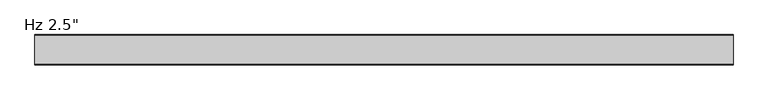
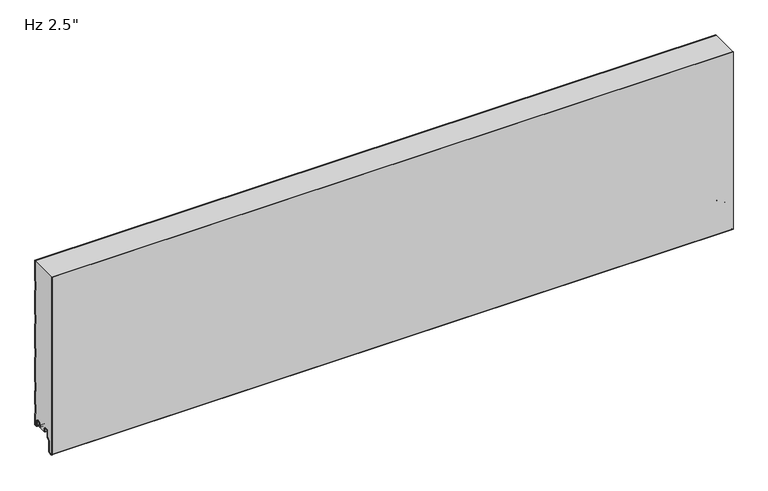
"""IFC4 building model written with IfcOpenShell, lengths in millimetres: plate geometry."""

from ifc_helpers import new_model, si_unit, point, frame, frame_2d, origin, place, context, project, spatial, polyline, circle_curve, trimmed, segment, composite_curve, outline, extrude, source, transform, mapped, element, save
from ifc_brep_helpers import plane_surface, cylinder_surface, revolved_surface, advanced_brep


def plate_5c45e8e0(model_context):
    return source(origin(), model_context, "Body", "SolidModel", [
        extrude(outline(composite_curve([segment(trimmed(circle_curve(frame_2d((-59.9297607, -32.4521176)), 3.5702393), [point((-59.6184903, -36.008762))], [point((-63.5, -32.4521154))], False, "CARTESIAN"), True, "CONTINUOUS"), segment(polyline([(-63.5, -32.4521154), (-63.4997439, 368.0), (-62.4993606, 368.0), (-62.4993606, -32.509446)]), True, "CONTINUOUS"), segment(trimmed(circle_curve(frame_2d((-59.9297607, -32.4521176)), 2.5702393), [point((-62.4993606, -32.509446))], [point((-59.7056751, -35.0125699))], True, "CARTESIAN"), True, "CONTINUOUS"), segment(polyline([(-59.7056751, -35.0125699), (-54.7238542, -34.5765709)]), True, "CONTINUOUS"), segment(trimmed(circle_curve(frame_2d((-55.2052448, -31.9198392)), 2.6999926), [point((-54.7238542, -34.5765709))], [point((-52.5052522, -31.9198392))], True, "CARTESIAN"), True, "CONTINUOUS"), segment(polyline([(-52.5052522, -31.9198392), (-52.5052522, -9.8247096), (-47.0031811, -4.3226385)]), True, "CONTINUOUS"), segment(trimmed(circle_curve(frame_2d((-48.2052588, -3.1205608)), 1.6999946), [point((-47.0031811, -4.3226385))], [point((-46.5052642, -3.1205608))], True, "CARTESIAN"), True, "CONTINUOUS"), segment(polyline([(-46.5052642, -3.1205608), (-46.5052642, 8.6903283)]), True, "CONTINUOUS"), segment(trimmed(circle_curve(frame_2d((-43.1552689, 8.6903283)), 3.3499953), [point((-46.5052642, 8.6903283))], [point((-43.1552689, 12.0403236))], False, "CARTESIAN"), True, "CONTINUOUS"), segment(polyline([(-43.1552689, 12.0403236), (-38.7552777, 12.0403236)]), True, "CONTINUOUS"), segment(trimmed(circle_curve(frame_2d((-38.7552777, 8.6903283)), 3.3499953), [point((-38.7552777, 12.0403236))], [point((-35.4052824, 8.6903283))], False, "CARTESIAN"), True, "CONTINUOUS"), segment(polyline([(-35.4052824, 8.6903283), (-35.4052824, 5.9912173), (-34.0068035, 5.9912173), (-34.0068035, 2.2328239)]), True, "CONTINUOUS"), segment(trimmed(circle_curve(frame_2d((-35.2068002, 2.2313092)), 1.1999976), [point((-34.0068035, 2.2328239))], [point((-35.1762782, 1.0316999))], False, "CARTESIAN"), True, "CONTINUOUS"), segment(trimmed(circle_curve(frame_2d((-35.2068002, 2.2313092)), 1.1999976), [point((-35.1762782, 1.0316999))], [point((-36.4052824, 2.1710221))], False, "CARTESIAN"), True, "CONTINUOUS"), segment(polyline([(-36.4052824, 2.1710221), (-36.4052824, 8.6903283)]), True, "CONTINUOUS"), segment(trimmed(circle_curve(frame_2d((-38.7552777, 8.6903283)), 2.3499953), [point((-36.4052824, 8.6903283))], [point((-38.7552777, 11.0403236))], True, "CARTESIAN"), True, "CONTINUOUS"), segment(polyline([(-38.7552777, 11.0403236), (-43.1552689, 11.0403236)]), True, "CONTINUOUS"), segment(trimmed(circle_curve(frame_2d((-43.1552689, 8.6903283)), 2.3499953), [point((-43.1552689, 11.0403236))], [point((-45.5052642, 8.6903283))], True, "CARTESIAN"), True, "CONTINUOUS"), segment(polyline([(-45.5052642, 8.6903283), (-45.5052642, -3.1205608)]), True, "CONTINUOUS"), segment(trimmed(circle_curve(frame_2d((-48.2052588, -3.1205608)), 2.6999946), [point((-45.5052642, -3.1205608))], [point((-46.2960743, -5.0297453))], False, "CARTESIAN"), True, "CONTINUOUS"), segment(polyline([(-46.2960743, -5.0297453), (-51.1244918, -9.8581627)]), True, "CONTINUOUS"), segment(trimmed(circle_curve(frame_2d((-50.2052548, -10.7773997)), 1.2999974), [point((-51.1244918, -9.8581627))], [point((-51.5052522, -10.7773997))], True, "CARTESIAN"), True, "CONTINUOUS"), segment(polyline([(-51.5052522, -10.7773997), (-51.5052522, -31.9198392)]), True, "CONTINUOUS"), segment(trimmed(circle_curve(frame_2d((-55.2052448, -31.9198392)), 3.6999926), [point((-51.5052522, -31.9198392))], [point((-54.5944437, -35.5690675))], False, "CARTESIAN"), True, "CONTINUOUS"), segment(polyline([(-54.5944437, -35.5690675), (-59.6184903, -36.008762)]), True, "CONTINUOUS")], self_intersect=False)), frame((-730.0, 0.0, 0.0), z_axis=(1.0, 0.0, 0.0), x_axis=(0.0, 1.0, 0.0)), (0.0, 0.0, 1.0), 1460.0),
        advanced_brep(
        [(-730.0, -17.0015159, 2.0313088), (-730.0, -18.0015191, 1.0313115), (-730.0, -19.0015105, 2.0313088), (-730.0, -19.0015105, 6.0315124), (-730.0, -18.0015159, 6.0315124), (-730.0, -18.0015159, 8.7237222), (-730.0, -14.7015202, 12.0237179), (-730.0, -10.301529, 12.0237179), (-730.0, -7.0015335, 8.7237224), (-730.0, -7.0015335, -1.6962565), (-730.0, -5.2315393, -3.4662507), (-730.0, -0.9999916, -3.4662507), (-730.0, -0.9999916, 21.034026), (-730.0, -2.2002307, 22.4196686), (-730.0, -2.2002307, 41.7948349), (-730.0, -1.0, 43.1804678), (-730.0, -1.0, 71.8338832), (-730.0, -2.2002307, 73.2195162), (-730.0, -2.2002307, 92.5946825), (-730.0, -1.0, 93.9803154), (-730.0, -1.0, 148.0337308), (-730.0, -2.2002307, 149.4193638), (-730.0, -2.2002307, 168.7945301), (-730.0, -1.0, 170.180163), (-730.0, -1.0, 224.2335784), (-730.0, -2.2002307, 225.6192114), (-730.0, -2.2002307, 244.9943777), (-730.0, -1.0, 246.3800106), (-730.0, -1.0, 300.433426), (-730.0, -2.2002307, 301.819059), (-730.0, -2.2002307, 321.1942253), (-730.0, -1.0, 322.5798582), (-730.0, -1.0, 368.0), (-730.0, 0.0, 368.0), (-730.0, 0.0, 322.7290094), (-730.0, -0.3417885, 321.8123925), (-730.0, -1.2002307, 320.8213449), (-730.0, -1.2002307, 302.1919394), (-730.0, -0.3417885, 301.2008918), (-730.0, 0.0, 300.2842749), (-730.0, 0.0, 246.5291618), (-730.0, -0.3417885, 245.6125449), (-730.0, -1.2002307, 244.6214973), (-730.0, -1.2002307, 225.9920918), (-730.0, -0.3417885, 225.0010442), (-730.0, 0.0, 224.0844273), (-730.0, 0.0, 170.3293142), (-730.0, -0.3417885, 169.4126973), (-730.0, -1.2002307, 168.4216497), (-730.0, -1.2002307, 149.7922442), (-730.0, -0.3417885, 148.8011966), (-730.0, 0.0, 147.8845797), (-730.0, 0.0, 94.1294666), (-730.0, -0.3417885, 93.2128497), (-730.0, -1.2002307, 92.2218021), (-730.0, -1.2002307, 73.5923966), (-730.0, -0.3417885, 72.601349), (-730.0, 0.0, 71.6847321), (-730.0, 0.0, 43.329619), (-730.0, -0.3417885, 42.4130021), (-730.0, -1.2002307, 41.4219545), (-730.0, -1.2002307, 22.792549), (-730.0, -0.3417885, 21.8015014), (-730.0, 0.0, 20.8847931), (-730.0, 8.4e-06, -3.0662545), (-730.0, -1.3999878, -4.4662507), (-730.0, -5.2315393, -4.4662507), (-730.0, -8.0015335, -1.6962565), (-730.0, -8.0015335, 8.7237224), (-730.0, -10.301529, 11.0237179), (-730.0, -14.7015202, 11.0237179), (-730.0, -17.0015159, 8.7237222), (730.0, -17.0015159, 2.0313088), (730.0, -17.0015159, 8.7237222), (730.0, -14.7015202, 11.0237179), (730.0, -10.301529, 11.0237179), (730.0, -8.0015335, 8.7237224), (730.0, -8.0015335, -1.6962565), (730.0, -5.2315393, -4.4662507), (730.0, -1.3999878, -4.4662507), (730.0, 8.4e-06, -3.0662545), (730.0, 8.4e-06, 20.8848845), (730.0, -0.3417885, 21.8015014), (730.0, -1.2002307, 22.792549), (730.0, -1.2002307, 41.4219545), (730.0, -0.3417885, 42.4130021), (730.0, 0.0, 43.329619), (730.0, 0.0, 71.6847321), (730.0, -0.3417885, 72.601349), (730.0, -1.2002307, 73.5923966), (730.0, -1.2002307, 92.2218021), (730.0, -0.3417885, 93.2128497), (730.0, 0.0, 94.1294666), (730.0, 0.0, 147.8845797), (730.0, -0.3417885, 148.8011966), (730.0, -1.2002307, 149.7922442), (730.0, -1.2002307, 168.4216497), (730.0, -0.3417885, 169.4126973), (730.0, 0.0, 170.3293142), (730.0, 0.0, 224.0844273), (730.0, -0.3417885, 225.0010442), (730.0, -1.2002307, 225.9920918), (730.0, -1.2002307, 244.6214973), (730.0, -0.3417885, 245.6125449), (730.0, 0.0, 246.5291618), (730.0, 0.0, 300.2842749), (730.0, -0.3417885, 301.2008918), (730.0, -1.2002307, 302.1919394), (730.0, -1.2002307, 320.8213449), (730.0, -0.3417885, 321.8123925), (730.0, 0.0, 322.7290094), (730.0, 0.0, 368.0), (730.0, -1.0, 368.0), (730.0, -1.0, 322.5798582), (730.0, -2.2002307, 321.1942253), (730.0, -2.2002307, 301.819059), (730.0, -1.0, 300.433426), (730.0, -1.0, 246.3800106), (730.0, -2.2002307, 244.9943777), (730.0, -2.2002307, 225.6192114), (730.0, -1.0, 224.2335784), (730.0, -1.0, 170.180163), (730.0, -2.2002307, 168.7945301), (730.0, -2.2002307, 149.4193638), (730.0, -1.0, 148.0337308), (730.0, -1.0, 93.9803154), (730.0, -2.2002307, 92.5946825), (730.0, -2.2002307, 73.2195162), (730.0, -1.0, 71.8338832), (730.0, -1.0, 43.1804678), (730.0, -2.2002307, 41.7948349), (730.0, -2.2002307, 22.4196686), (730.0, -0.9999916, 21.034026), (730.0, -0.9999916, -3.4662507), (730.0, -5.2315393, -3.4662507), (730.0, -7.0015335, -1.6962565), (730.0, -7.0015335, 8.7237224), (730.0, -10.301529, 12.0237179), (730.0, -14.7015202, 12.0237179), (730.0, -18.0015159, 8.7237222), (730.0, -18.0015159, 6.0315124), (730.0, -19.0015105, 6.0315124), (730.0, -19.0015105, 2.0313088), (730.0, -18.0015192, 1.0313116)],
        [
            (0, 1, circle_curve(frame((-730.0, -18.0015132, 2.0313088), z_axis=(-1.0, 0.0, 0.0), x_axis=(0.0, 0.0, 1.0)), 0.9999973)),
            (1, 2, circle_curve(frame((-730.0, -18.0015133, 2.0313088), z_axis=(-1.0, 0.0, 0.0), x_axis=(0.0, 0.0, 1.0)), 0.9999972)),
            (2, 3),
            (3, 4),
            (4, 5),
            (5, 6, circle_curve(frame((-730.0, -14.7015202, 8.7237222), z_axis=(-1.0, 0.0, 0.0), x_axis=(0.0, 0.0, 1.0)), 3.2999957)),
            (6, 7),
            (7, 8, circle_curve(frame((-730.0, -10.301529, 8.7237224), z_axis=(-1.0, 0.0, 0.0), x_axis=(0.0, 0.0, 1.0)), 3.2999955)),
            (8, 9),
            (9, 10, circle_curve(frame((-730.0, -5.2315393, -1.6962565), z_axis=(1.0, 0.0, 0.0), x_axis=(0.0, 0.0, 1.0)), 1.7699942)),
            (10, 11),
            (11, 12),
            (12, 13),
            (13, 14),
            (14, 15),
            (15, 16),
            (16, 17),
            (17, 18),
            (18, 19),
            (19, 20),
            (20, 21),
            (21, 22),
            (22, 23),
            (23, 24),
            (24, 25),
            (25, 26),
            (26, 27),
            (27, 28),
            (28, 29),
            (29, 30),
            (30, 31),
            (31, 32),
            (32, 33),
            (33, 34),
            (34, 35, circle_curve(frame((-730.0, -1.3999972, 322.7290094), z_axis=(-1.0, 0.0, 0.0), x_axis=(0.0, 0.0, 1.0)), 1.3999972)),
            (35, 36),
            (36, 37),
            (37, 38),
            (38, 39, circle_curve(frame((-730.0, -1.3999972, 300.2842749), z_axis=(-1.0, 0.0, 0.0), x_axis=(0.0, 0.0, 1.0)), 1.3999972)),
            (39, 40),
            (40, 41, circle_curve(frame((-730.0, -1.3999972, 246.5291618), z_axis=(-1.0, 0.0, 0.0), x_axis=(0.0, 0.0, 1.0)), 1.3999972)),
            (41, 42),
            (42, 43),
            (43, 44),
            (44, 45, circle_curve(frame((-730.0, -1.3999972, 224.0844273), z_axis=(-1.0, 0.0, 0.0), x_axis=(0.0, 0.0, 1.0)), 1.3999972)),
            (45, 46),
            (46, 47, circle_curve(frame((-730.0, -1.3999972, 170.3293142), z_axis=(-1.0, 0.0, 0.0), x_axis=(0.0, 0.0, 1.0)), 1.3999972)),
            (47, 48),
            (48, 49),
            (49, 50),
            (50, 51, circle_curve(frame((-730.0, -1.3999972, 147.8845797), z_axis=(-1.0, 0.0, 0.0), x_axis=(0.0, 0.0, 1.0)), 1.3999972)),
            (51, 52),
            (52, 53, circle_curve(frame((-730.0, -1.3999972, 94.1294666), z_axis=(-1.0, 0.0, 0.0), x_axis=(0.0, 0.0, 1.0)), 1.3999972)),
            (53, 54),
            (54, 55),
            (55, 56),
            (56, 57, circle_curve(frame((-730.0, -1.3999972, 71.6847321), z_axis=(-1.0, 0.0, 0.0), x_axis=(0.0, 0.0, 1.0)), 1.3999972)),
            (57, 58),
            (58, 59, circle_curve(frame((-730.0, -1.3999972, 43.329619), z_axis=(-1.0, 0.0, 0.0), x_axis=(0.0, 0.0, 1.0)), 1.3999972)),
            (59, 60),
            (60, 61),
            (61, 62),
            (62, 63, circle_curve(frame((-730.0, -1.3999972, 20.8848845), z_axis=(-1.0, 0.0, 0.0), x_axis=(0.0, 0.0, 1.0)), 1.3999972)),
            (63, 64),
            (64, 65, circle_curve(frame((-730.0, -1.3999878, -3.0662545), z_axis=(-1.0, 0.0, 0.0), x_axis=(0.0, 0.0, 1.0)), 1.3999962)),
            (65, 66),
            (66, 67, circle_curve(frame((-730.0, -5.2315393, -1.6962565), z_axis=(-1.0, 0.0, 0.0), x_axis=(0.0, 0.0, 1.0)), 2.7699942)),
            (67, 68),
            (68, 69, circle_curve(frame((-730.0, -10.301529, 8.7237224), z_axis=(1.0, 0.0, 0.0), x_axis=(0.0, 0.0, 1.0)), 2.2999955)),
            (69, 70),
            (70, 71, circle_curve(frame((-730.0, -14.7015202, 8.7237222), z_axis=(1.0, 0.0, 0.0), x_axis=(0.0, 0.0, 1.0)), 2.2999957)),
            (71, 0),
            (72, 73),
            (73, 74, circle_curve(frame((730.0, -14.7015202, 8.7237222), z_axis=(-1.0, 0.0, 0.0), x_axis=(0.0, 0.0, 1.0)), 2.2999957)),
            (74, 75),
            (75, 76, circle_curve(frame((730.0, -10.301529, 8.7237224), z_axis=(-1.0, 0.0, 0.0), x_axis=(0.0, 0.0, 1.0)), 2.2999955)),
            (76, 77),
            (77, 78, circle_curve(frame((730.0, -5.2315393, -1.6962565), z_axis=(1.0, 0.0, 0.0), x_axis=(0.0, 0.0, 1.0)), 2.7699942)),
            (78, 79),
            (79, 80, circle_curve(frame((730.0, -1.3999878, -3.0662545), z_axis=(1.0, 0.0, 0.0), x_axis=(0.0, 0.0, 1.0)), 1.3999962)),
            (80, 81),
            (81, 82, circle_curve(frame((730.0, -1.3999972, 20.8848845), z_axis=(1.0, 0.0, 0.0), x_axis=(0.0, 0.0, 1.0)), 1.3999972)),
            (82, 83),
            (83, 84),
            (84, 85),
            (85, 86, circle_curve(frame((730.0, -1.3999972, 43.329619), z_axis=(1.0, 0.0, 0.0), x_axis=(0.0, 0.0, 1.0)), 1.3999972)),
            (86, 87),
            (87, 88, circle_curve(frame((730.0, -1.3999972, 71.6847321), z_axis=(1.0, 0.0, 0.0), x_axis=(0.0, 0.0, 1.0)), 1.3999972)),
            (88, 89),
            (89, 90),
            (90, 91),
            (91, 92, circle_curve(frame((730.0, -1.3999972, 94.1294666), z_axis=(1.0, 0.0, 0.0), x_axis=(0.0, 0.0, 1.0)), 1.3999972)),
            (92, 93),
            (93, 94, circle_curve(frame((730.0, -1.3999972, 147.8845797), z_axis=(1.0, 0.0, 0.0), x_axis=(0.0, 0.0, 1.0)), 1.3999972)),
            (94, 95),
            (95, 96),
            (96, 97),
            (97, 98, circle_curve(frame((730.0, -1.3999972, 170.3293142), z_axis=(1.0, 0.0, 0.0), x_axis=(0.0, 0.0, 1.0)), 1.3999972)),
            (98, 99),
            (99, 100, circle_curve(frame((730.0, -1.3999972, 224.0844273), z_axis=(1.0, 0.0, 0.0), x_axis=(0.0, 0.0, 1.0)), 1.3999972)),
            (100, 101),
            (101, 102),
            (102, 103),
            (103, 104, circle_curve(frame((730.0, -1.3999972, 246.5291618), z_axis=(1.0, 0.0, 0.0), x_axis=(0.0, 0.0, 1.0)), 1.3999972)),
            (104, 105),
            (105, 106, circle_curve(frame((730.0, -1.3999972, 300.2842749), z_axis=(1.0, 0.0, 0.0), x_axis=(0.0, 0.0, 1.0)), 1.3999972)),
            (106, 107),
            (107, 108),
            (108, 109),
            (109, 110, circle_curve(frame((730.0, -1.3999972, 322.7290094), z_axis=(1.0, 0.0, 0.0), x_axis=(0.0, 0.0, 1.0)), 1.3999972)),
            (110, 111),
            (111, 112),
            (112, 113),
            (113, 114),
            (114, 115),
            (115, 116),
            (116, 117),
            (117, 118),
            (118, 119),
            (119, 120),
            (120, 121),
            (121, 122),
            (122, 123),
            (123, 124),
            (124, 125),
            (125, 126),
            (126, 127),
            (127, 128),
            (128, 129),
            (129, 130),
            (130, 131),
            (131, 132),
            (132, 133),
            (133, 134),
            (134, 135, circle_curve(frame((730.0, -5.2315393, -1.6962565), z_axis=(-1.0, 0.0, 0.0), x_axis=(0.0, 0.0, 1.0)), 1.7699942)),
            (135, 136),
            (136, 137, circle_curve(frame((730.0, -10.301529, 8.7237224), z_axis=(1.0, 0.0, 0.0), x_axis=(0.0, 0.0, 1.0)), 3.2999955)),
            (137, 138),
            (138, 139, circle_curve(frame((730.0, -14.7015202, 8.7237222), z_axis=(1.0, 0.0, 0.0), x_axis=(0.0, 0.0, 1.0)), 3.2999957)),
            (139, 140),
            (140, 141),
            (141, 142),
            (142, 143, circle_curve(frame((730.0, -18.0015133, 2.0313088), z_axis=(1.0, 0.0, 0.0), x_axis=(0.0, 0.0, 1.0)), 0.9999972)),
            (143, 72, circle_curve(frame((730.0, -18.0015132, 2.0313088), z_axis=(1.0, 0.0, 0.0), x_axis=(0.0, 0.0, 1.0)), 0.9999973)),
            (32, 112),
            (111, 33),
            (67, 77),
            (76, 68),
            (0, 72),
            (143, 1),
            (71, 73),
            (70, 74),
            (75, 69),
            (65, 79),
            (78, 66),
            (64, 80),
            (63, 81),
            (2, 142),
            (141, 3),
            (56, 88),
            (87, 57),
            (61, 83),
            (82, 62),
            (60, 84),
            (58, 86),
            (85, 59),
            (50, 94),
            (93, 51),
            (54, 90),
            (89, 55),
            (52, 92),
            (91, 53),
            (44, 100),
            (99, 45),
            (48, 96),
            (95, 49),
            (46, 98),
            (97, 47),
            (38, 106),
            (105, 39),
            (42, 102),
            (101, 43),
            (40, 104),
            (103, 41),
            (36, 108),
            (107, 37),
            (34, 110),
            (109, 35),
            (27, 117),
            (116, 28),
            (115, 29),
            (114, 30),
            (113, 31),
            (26, 118),
            (25, 119),
            (24, 120),
            (23, 121),
            (22, 122),
            (21, 123),
            (20, 124),
            (19, 125),
            (18, 126),
            (17, 127),
            (16, 128),
            (15, 129),
            (14, 130),
            (140, 4),
            (139, 5),
            (138, 6),
            (137, 7),
            (136, 8),
            (135, 9),
            (12, 132),
            (131, 13),
            (11, 133),
            (10, 134),
        ],
        [
            plane_surface(frame((-730.0, 0.0, 508.0), z_axis=(-1.0, 0.0, 0.0), x_axis=(0.0, 1.0, 0.0))),
            plane_surface(frame((730.0, 0.0, 508.0), z_axis=(1.0, 0.0, 0.0), x_axis=(0.0, 1.0, 0.0))),
            plane_surface(frame((730.0, 10.0, 368.0), z_axis=(0.0, 0.0, 1.0), x_axis=(-1.0, 0.0, 0.0))),
            plane_surface(frame((-730.0, -8.0015335, 8.7237224), z_axis=(0.0, -1.0, 0.0), x_axis=(1.0, 0.0, 0.0))),
            cylinder_surface(frame((-730.0, -18.0015132, 2.0313088), z_axis=(-1.0, 0.0, 0.0), x_axis=(0.0, 0.0, 1.0)), 0.9999973),
            plane_surface(frame((-730.0, -17.0015159, 2.0313088), z_axis=(0.0, 1.0, 0.0), x_axis=(1.0, 0.0, 0.0))),
            revolved_surface(polyline([(730.0, -14.7015202, 11.0237179), (-730.0, -14.7015202, 11.0237179)]), (-730.0, -14.7015202, 8.7237222), (1.0, 0.0, 0.0)),
            revolved_surface(polyline([(730.0, -10.301529, 11.0237179), (-730.0, -10.301529, 11.0237179)]), (-730.0, -10.301529, 8.7237224), (1.0, 0.0, 0.0)),
            plane_surface(frame((-730.0, -14.7015202, 11.0237179), z_axis=(0.0, 0.0, -1.0), x_axis=(1.0, 0.0, 0.0))),
            plane_surface(frame((-730.0, -5.2315393, -4.4662507), z_axis=(0.0, 0.0, -1.0), x_axis=(1.0, 0.0, 0.0))),
            cylinder_surface(frame((-730.0, -1.3999878, -3.0662545), z_axis=(-1.0, 0.0, 0.0), x_axis=(0.0, 0.0, 1.0)), 1.3999962),
            cylinder_surface(frame((-730.0, -5.2315393, -1.6962565), z_axis=(-1.0, 0.0, 0.0), x_axis=(0.0, 0.0, 1.0)), 2.7699942),
            plane_surface(frame((-730.0, 8.4e-06, -3.0662545), z_axis=(0.0, 1.0, 0.0), x_axis=(1.0, 0.0, 0.0))),
            plane_surface(frame((-730.0, -19.0015105, 6.0315124), z_axis=(0.0, -1.0, 0.0), x_axis=(1.0, 0.0, 0.0))),
            cylinder_surface(frame((-730.0, -18.0015133, 2.0313088), z_axis=(-1.0, 0.0, 0.0), x_axis=(0.0, 0.0, 1.0)), 0.9999972),
            cylinder_surface(frame((-730.0, -1.3999972, 71.6847321), z_axis=(-1.0, 0.0, 0.0), x_axis=(0.0, 0.0, 1.0)), 1.3999972),
            plane_surface(frame((-730.0, -0.3417885, 21.8015014), z_axis=(0.0, 0.755864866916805, 0.6547276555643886), x_axis=(1.0, 0.0, 0.0))),
            plane_surface(frame((-730.0, -1.2002307, 32.1072517), z_axis=(0.0, 1.0, 0.0), x_axis=(1.0, 0.0, 0.0))),
            cylinder_surface(frame((-730.0, -1.3999972, 20.8848845), z_axis=(-1.0, 0.0, 0.0), x_axis=(0.0, 0.0, 1.0)), 1.3999972),
            cylinder_surface(frame((-730.0, -1.3999972, 43.329619), z_axis=(-1.0, 0.0, 0.0), x_axis=(0.0, 0.0, 1.0)), 1.3999972),
            plane_surface(frame((-730.0, -1.2002307, 41.4219545), z_axis=(0.0, 0.755864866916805, -0.6547276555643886), x_axis=(1.0, 0.0, 0.0))),
            cylinder_surface(frame((-730.0, -1.3999972, 147.8845797), z_axis=(-1.0, 0.0, 0.0), x_axis=(0.0, 0.0, 1.0)), 1.3999972),
            plane_surface(frame((-730.0, -1.2002307, 82.9070993), z_axis=(0.0, 1.0, 0.0), x_axis=(1.0, 0.0, 0.0))),
            cylinder_surface(frame((-730.0, -1.3999972, 94.1294666), z_axis=(-1.0, 0.0, 0.0), x_axis=(0.0, 0.0, 1.0)), 1.3999972),
            plane_surface(frame((-730.0, -0.3417885, 72.601349), z_axis=(0.0, 0.755864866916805, 0.6547276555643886), x_axis=(1.0, 0.0, 0.0))),
            plane_surface(frame((-730.0, -1.2002307, 92.2218021), z_axis=(0.0, 0.755864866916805, -0.6547276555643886), x_axis=(1.0, 0.0, 0.0))),
            plane_surface(frame((-730.0, 0.0, 43.329619), z_axis=(0.0, 1.0, 0.0), x_axis=(1.0, 0.0, 0.0))),
            cylinder_surface(frame((-730.0, -1.3999972, 224.0844273), z_axis=(-1.0, 0.0, 0.0), x_axis=(0.0, 0.0, 1.0)), 1.3999972),
            plane_surface(frame((-730.0, -1.2002307, 159.1069469), z_axis=(0.0, 1.0, 0.0), x_axis=(1.0, 0.0, 0.0))),
            cylinder_surface(frame((-730.0, -1.3999972, 170.3293142), z_axis=(-1.0, 0.0, 0.0), x_axis=(0.0, 0.0, 1.0)), 1.3999972),
            plane_surface(frame((-730.0, -0.3417885, 148.8011966), z_axis=(0.0, 0.755864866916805, 0.6547276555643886), x_axis=(1.0, 0.0, 0.0))),
            plane_surface(frame((-730.0, -1.2002307, 168.4216497), z_axis=(0.0, 0.755864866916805, -0.6547276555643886), x_axis=(1.0, 0.0, 0.0))),
            plane_surface(frame((-730.0, 0.0, 94.1294666), z_axis=(0.0, 1.0, 0.0), x_axis=(1.0, 0.0, 0.0))),
            cylinder_surface(frame((-730.0, -1.3999972, 300.2842749), z_axis=(-1.0, 0.0, 0.0), x_axis=(0.0, 0.0, 1.0)), 1.3999972),
            plane_surface(frame((-730.0, -1.2002307, 235.3067945), z_axis=(0.0, 1.0, 0.0), x_axis=(1.0, 0.0, 0.0))),
            cylinder_surface(frame((-730.0, -1.3999972, 246.5291618), z_axis=(-1.0, 0.0, 0.0), x_axis=(0.0, 0.0, 1.0)), 1.3999972),
            plane_surface(frame((-730.0, -0.3417885, 225.0010442), z_axis=(0.0, 0.755864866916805, 0.6547276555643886), x_axis=(1.0, 0.0, 0.0))),
            plane_surface(frame((-730.0, -1.2002307, 244.6214973), z_axis=(0.0, 0.755864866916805, -0.6547276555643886), x_axis=(1.0, 0.0, 0.0))),
            plane_surface(frame((-730.0, 0.0, 170.3293142), z_axis=(0.0, 1.0, 0.0), x_axis=(1.0, 0.0, 0.0))),
            plane_surface(frame((-730.0, -1.2002307, 311.5066421), z_axis=(0.0, 1.0, 0.0), x_axis=(1.0, 0.0, 0.0))),
            cylinder_surface(frame((-730.0, -1.3999972, 322.7290094), z_axis=(-1.0, 0.0, 0.0), x_axis=(0.0, 0.0, 1.0)), 1.3999972),
            plane_surface(frame((-730.0, -0.3417885, 301.2008918), z_axis=(0.0, 0.755864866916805, 0.6547276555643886), x_axis=(1.0, 0.0, 0.0))),
            plane_surface(frame((-730.0, -1.2002307, 320.8213449), z_axis=(0.0, 0.755864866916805, -0.6547276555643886), x_axis=(1.0, 0.0, 0.0))),
            plane_surface(frame((-730.0, 0.0, 246.5291618), z_axis=(0.0, 1.0, 0.0), x_axis=(1.0, 0.0, 0.0))),
            plane_surface(frame((-730.0, 0.0, 322.7290094), z_axis=(0.0, 1.0, 0.0), x_axis=(1.0, 0.0, 0.0))),
            plane_surface(frame((-730.0, -1.0, 300.433426), z_axis=(0.0, -1.0, 0.0), x_axis=(1.0, 0.0, 0.0))),
            plane_surface(frame((-730.0, -2.2002307, 301.819059), z_axis=(0.0, -0.755864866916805, -0.6547276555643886), x_axis=(1.0, 0.0, 0.0))),
            plane_surface(frame((-730.0, -2.2002307, 321.1942253), z_axis=(0.0, -1.0, 0.0), x_axis=(1.0, 0.0, 0.0))),
            plane_surface(frame((-730.0, -1.0, 322.5798582), z_axis=(0.0, -0.755864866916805, 0.6547276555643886), x_axis=(1.0, 0.0, 0.0))),
            plane_surface(frame((-730.0, -1.0, 376.6332736), z_axis=(0.0, -1.0, 0.0), x_axis=(1.0, 0.0, 0.0))),
            plane_surface(frame((-730.0, -1.0, 246.3800106), z_axis=(0.0, -0.755864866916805, 0.6547276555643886), x_axis=(1.0, 0.0, 0.0))),
            plane_surface(frame((-730.0, -2.2002307, 244.9943777), z_axis=(0.0, -1.0, 0.0), x_axis=(1.0, 0.0, 0.0))),
            plane_surface(frame((-730.0, -2.2002307, 225.6192114), z_axis=(0.0, -0.755864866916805, -0.6547276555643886), x_axis=(1.0, 0.0, 0.0))),
            plane_surface(frame((-730.0, -1.0, 224.2335784), z_axis=(0.0, -1.0, 0.0), x_axis=(1.0, 0.0, 0.0))),
            plane_surface(frame((-730.0, -1.0, 170.180163), z_axis=(0.0, -0.755864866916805, 0.6547276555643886), x_axis=(1.0, 0.0, 0.0))),
            plane_surface(frame((-730.0, -2.2002307, 168.7945301), z_axis=(0.0, -1.0, 0.0), x_axis=(1.0, 0.0, 0.0))),
            plane_surface(frame((-730.0, -2.2002307, 149.4193638), z_axis=(0.0, -0.755864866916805, -0.6547276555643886), x_axis=(1.0, 0.0, 0.0))),
            plane_surface(frame((-730.0, -1.0, 148.0337308), z_axis=(0.0, -1.0, 0.0), x_axis=(1.0, 0.0, 0.0))),
            plane_surface(frame((-730.0, -1.0, 93.9803154), z_axis=(0.0, -0.755864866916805, 0.6547276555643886), x_axis=(1.0, 0.0, 0.0))),
            plane_surface(frame((-730.0, -2.2002307, 92.5946825), z_axis=(0.0, -1.0, 0.0), x_axis=(1.0, 0.0, 0.0))),
            plane_surface(frame((-730.0, -2.2002307, 73.2195162), z_axis=(0.0, -0.755864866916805, -0.6547276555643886), x_axis=(1.0, 0.0, 0.0))),
            plane_surface(frame((-730.0, -1.0, 71.8338832), z_axis=(0.0, -1.0, 0.0), x_axis=(1.0, 0.0, 0.0))),
            plane_surface(frame((-730.0, -1.0, 43.1804678), z_axis=(0.0, -0.755864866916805, 0.6547276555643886), x_axis=(1.0, 0.0, 0.0))),
            plane_surface(frame((-730.0, -18.0015159, 6.0315124), z_axis=(0.0, 0.0, 1.0), x_axis=(1.0, 0.0, 0.0))),
            plane_surface(frame((-730.0, -18.0015159, 8.7237222), z_axis=(0.0, -1.0, 0.0), x_axis=(1.0, 0.0, 0.0))),
            cylinder_surface(frame((-730.0, -14.7015202, 8.7237222), z_axis=(-1.0, 0.0, 0.0), x_axis=(0.0, 0.0, 1.0)), 3.2999957),
            plane_surface(frame((-730.0, -10.301529, 12.0237179), z_axis=(0.0, 0.0, 1.0), x_axis=(1.0, 0.0, 0.0))),
            cylinder_surface(frame((-730.0, -10.301529, 8.7237224), z_axis=(-1.0, 0.0, 0.0), x_axis=(0.0, 0.0, 1.0)), 3.2999955),
            plane_surface(frame((-730.0, -7.0015335, -1.6962565), z_axis=(0.0, 1.0, 0.0), x_axis=(1.0, 0.0, 0.0))),
            plane_surface(frame((-730.0, -2.2002307, 22.4196686), z_axis=(0.0, -0.755864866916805, -0.6547276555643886), x_axis=(1.0, 0.0, 0.0))),
            plane_surface(frame((-730.0, -2.2002307, 41.7948349), z_axis=(0.0, -1.0, 0.0), x_axis=(1.0, 0.0, 0.0))),
            plane_surface(frame((-730.0, -0.9999916, 21.034026), z_axis=(0.0, -1.0, 0.0), x_axis=(1.0, 0.0, 0.0))),
            plane_surface(frame((-730.0, -0.9999916, -3.4662507), z_axis=(0.0, 0.0, 1.0), x_axis=(1.0, 0.0, 0.0))),
            revolved_surface(polyline([(730.0, -5.2315393, 0.0737376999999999), (-730.0, -5.2315393, 0.0737376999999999)]), (-730.0, -5.2315393, -1.6962565), (1.0, 0.0, 0.0)),
        ],
        [
            (0, [[1, 2, 3, 4, 5, 6, 7, 8, 9, 10, 11, 12, 13, 14, 15, 16, 17, 18, 19, 20, 21, 22, 23, 24, 25, 26, 27, 28, 29, 30, 31, 32, 33, 34, 35, 36, 37, 38, 39, 40, 41, 42, 43, 44, 45, 46, 47, 48, 49, 50, 51, 52, 53, 54, 55, 56, 57, 58, 59, 60, 61, 62, 63, 64, 65, 66, 67, 68, 69, 70, 71, 72]]),
            (1, [[73, 74, 75, 76, 77, 78, 79, 80, 81, 82, 83, 84, 85, 86, 87, 88, 89, 90, 91, 92, 93, 94, 95, 96, 97, 98, 99, 100, 101, 102, 103, 104, 105, 106, 107, 108, 109, 110, 111, 112, 113, 114, 115, 116, 117, 118, 119, 120, 121, 122, 123, 124, 125, 126, 127, 128, 129, 130, 131, 132, 133, 134, 135, 136, 137, 138, 139, 140, 141, 142, 143, 144]]),
            (2, [[145, -112, 146, -33]]),
            (3, [[147, -77, 148, -68]]),
            (4, [[149, -144, 150, -1]]),
            (5, [[151, -73, -149, -72]]),
            (6, [[152, -74, -151, -71]]),
            (7, [[-148, -76, 153, -69]]),
            (8, [[-153, -75, -152, -70]]),
            (9, [[154, -79, 155, -66]]),
            (10, [[156, -80, -154, -65]]),
            (11, [[-155, -78, -147, -67]]),
            (12, [[157, -81, -156, -64]]),
            (13, [[158, -142, 159, -3]]),
            (14, [[-150, -143, -158, -2]]),
            (15, [[160, -88, 161, -57]]),
            (16, [[162, -83, 163, -62]]),
            (17, [[164, -84, -162, -61]]),
            (18, [[-163, -82, -157, -63]]),
            (19, [[165, -86, 166, -59]]),
            (20, [[-166, -85, -164, -60]]),
            (21, [[167, -94, 168, -51]]),
            (22, [[169, -90, 170, -55]]),
            (23, [[171, -92, 172, -53]]),
            (24, [[-170, -89, -160, -56]]),
            (25, [[-172, -91, -169, -54]]),
            (26, [[-161, -87, -165, -58]]),
            (27, [[173, -100, 174, -45]]),
            (28, [[175, -96, 176, -49]]),
            (29, [[177, -98, 178, -47]]),
            (30, [[-176, -95, -167, -50]]),
            (31, [[-178, -97, -175, -48]]),
            (32, [[-168, -93, -171, -52]]),
            (33, [[179, -106, 180, -39]]),
            (34, [[181, -102, 182, -43]]),
            (35, [[183, -104, 184, -41]]),
            (36, [[-182, -101, -173, -44]]),
            (37, [[-184, -103, -181, -42]]),
            (38, [[-174, -99, -177, -46]]),
            (39, [[185, -108, 186, -37]]),
            (40, [[187, -110, 188, -35]]),
            (41, [[-186, -107, -179, -38]]),
            (42, [[-188, -109, -185, -36]]),
            (43, [[-180, -105, -183, -40]]),
            (44, [[-34, -146, -111, -187]]),
            (45, [[189, -117, 190, -28]]),
            (46, [[-190, -116, 191, -29]]),
            (47, [[-191, -115, 192, -30]]),
            (48, [[-192, -114, 193, -31]]),
            (49, [[-113, -145, -32, -193]]),
            (50, [[194, -118, -189, -27]]),
            (51, [[195, -119, -194, -26]]),
            (52, [[196, -120, -195, -25]]),
            (53, [[197, -121, -196, -24]]),
            (54, [[198, -122, -197, -23]]),
            (55, [[199, -123, -198, -22]]),
            (56, [[200, -124, -199, -21]]),
            (57, [[201, -125, -200, -20]]),
            (58, [[202, -126, -201, -19]]),
            (59, [[203, -127, -202, -18]]),
            (60, [[204, -128, -203, -17]]),
            (61, [[205, -129, -204, -16]]),
            (62, [[206, -130, -205, -15]]),
            (63, [[-159, -141, 207, -4]]),
            (64, [[-207, -140, 208, -5]]),
            (65, [[-208, -139, 209, -6]]),
            (66, [[-209, -138, 210, -7]]),
            (67, [[-210, -137, 211, -8]]),
            (68, [[-211, -136, 212, -9]]),
            (69, [[213, -132, 214, -13]]),
            (70, [[-214, -131, -206, -14]]),
            (71, [[215, -133, -213, -12]]),
            (72, [[216, -134, -215, -11]]),
            (73, [[-212, -135, -216, -10]]),
        ],
    ),
        advanced_brep(
        [(-730.0, -35.170875, 1.0316999), (-730.0, -34.0014003, 2.2328239), (-730.0, -34.0014003, 5.9912173), (-730.0, -35.3998791, 5.9912173), (-730.0, -35.3998791, 8.6903283), (-730.0, -38.7498744, 12.0403236), (-730.0, -43.1498656, 12.0403236), (-730.0, -46.4998609, 8.6903283), (-730.0, -46.4998609, -3.1205608), (-730.0, -46.9977778, -4.3226385), (-730.0, -52.4998489, -9.8247096), (-730.0, -52.4998489, -31.9198392), (-730.0, -54.7184509, -34.5765709), (-730.0, -59.7002718, -35.0125699), (-730.0, -62.4945967, -32.4521176), (-730.0, -62.5, 368.0), (-730.0, -1.0, 368.0), (-730.0, -1.0, 322.5798583), (-730.0, -2.2002307, 321.1942253), (-730.0, -2.2002307, 301.819059), (-730.0, -1.0, 300.4334261), (-730.0, -1.0, 246.3800107), (-730.0, -2.2002307, 244.9943777), (-730.0, -2.2002307, 225.6192114), (-730.0, -1.0, 224.2335785), (-730.0, -1.0, 170.1801631), (-730.0, -2.2002307, 168.7945301), (-730.0, -2.2002307, 149.4193638), (-730.0, -1.0, 148.0337309), (-730.0, -1.0, 93.9803155), (-730.0, -2.2002307, 92.5946825), (-730.0, -2.2002307, 73.2195162), (-730.0, -1.0, 71.8338833), (-730.0, -1.0, 43.1804679), (-730.0, -2.2002307, 41.7948349), (-730.0, -2.2002307, 22.4196686), (-730.0, -0.9999916, 21.034026), (-730.0, -0.9999916, -3.4662506), (-730.0, -5.2315389, -3.4662506), (-730.0, -7.0015331, -1.6962564), (-730.0, -7.0015331, 8.7237221), (-730.0, -10.301529, 12.023718), (-730.0, -14.7015202, 12.023718), (-730.0, -18.0015159, 8.7237223), (-730.0, -18.0015159, 6.0315125), (-730.0, -19.0015105, 6.0315125), (-730.0, -19.0015105, 2.0313088), (-730.0, -18.0015192, 1.0313116), (-730.0, -19.0328308, 0.0), (-730.0, -34.1391751, 0.0), (730.0, -35.170875, 1.0316999), (730.0, -34.1391751, 0.0), (730.0, -19.0328308, 0.0), (730.0, -18.0015192, 1.0313116), (730.0, -19.0015105, 2.0313088), (730.0, -19.0015105, 6.0315125), (730.0, -18.0015159, 6.0315125), (730.0, -18.0015159, 8.7237223), (730.0, -14.7015202, 12.023718), (730.0, -10.301529, 12.023718), (730.0, -7.0015331, 8.7237221), (730.0, -7.0015331, -1.6962564), (730.0, -5.2315389, -3.4662506), (730.0, -0.9999916, -3.4662506), (730.0, -0.9999916, 21.034026), (730.0, -2.2002307, 22.4196686), (730.0, -2.2002307, 41.7948349), (730.0, -1.0, 43.1804679), (730.0, -1.0, 71.8338833), (730.0, -2.2002307, 73.2195162), (730.0, -2.2002307, 92.5946825), (730.0, -1.0, 93.9803155), (730.0, -1.0, 148.0337309), (730.0, -2.2002307, 149.4193638), (730.0, -2.2002307, 168.7945301), (730.0, -1.0, 170.1801631), (730.0, -1.0, 224.2335785), (730.0, -2.2002307, 225.6192114), (730.0, -2.2002307, 244.9943777), (730.0, -1.0, 246.3800107), (730.0, -1.0, 300.4334261), (730.0, -2.2002307, 301.819059), (730.0, -2.2002307, 321.1942253), (730.0, -1.0, 322.5798583), (730.0, -1.0, 368.0), (730.0, -62.5, 368.0), (730.0, -62.5, -32.4521176), (730.0, -59.7002718, -35.0125699), (730.0, -54.7184509, -34.5765709), (730.0, -52.4998489, -31.9198392), (730.0, -52.4998489, -9.8247096), (730.0, -46.9977778, -4.3226385), (730.0, -46.4998609, -3.1205608), (730.0, -46.4998609, 8.6903283), (730.0, -43.1498656, 12.0403236), (730.0, -38.7498744, 12.0403236), (730.0, -35.3998791, 8.6903283), (730.0, -35.3998791, 5.9912173), (730.0, -34.0014003, 5.9912173), (730.0, -34.0014003, 2.2328239)],
        [
            (0, 1, circle_curve(frame((-730.0, -35.2013969, 2.2313092), z_axis=(1.0, 0.0, 0.0), x_axis=(0.0, 0.0, -1.0)), 1.1999976)),
            (1, 2),
            (2, 3),
            (3, 4),
            (4, 5, circle_curve(frame((-730.0, -38.7498744, 8.6903283), z_axis=(1.0, 0.0, 0.0), x_axis=(0.0, 0.0, -1.0)), 3.3499953)),
            (5, 6),
            (6, 7, circle_curve(frame((-730.0, -43.1498656, 8.6903283), z_axis=(1.0, 0.0, 0.0), x_axis=(0.0, 0.0, -1.0)), 3.3499953)),
            (7, 8),
            (8, 9, circle_curve(frame((-730.0, -48.1998555, -3.1205608), z_axis=(-1.0, 0.0, 0.0), x_axis=(0.0, 0.0, -1.0)), 1.6999946)),
            (9, 10),
            (10, 11),
            (11, 12, circle_curve(frame((-730.0, -55.1998415, -31.9198392), z_axis=(-1.0, 0.0, 0.0), x_axis=(0.0, 0.0, -1.0)), 2.6999926)),
            (12, 13),
            (13, 14, circle_curve(frame((-730.0, -59.9243575, -32.4521176), z_axis=(-1.0, 0.0, 0.0), x_axis=(0.0, 0.0, -1.0)), 2.5702393)),
            (14, 15),
            (15, 16),
            (16, 17),
            (17, 18),
            (18, 19),
            (19, 20),
            (20, 21),
            (21, 22),
            (22, 23),
            (23, 24),
            (24, 25),
            (25, 26),
            (26, 27),
            (27, 28),
            (28, 29),
            (29, 30),
            (30, 31),
            (31, 32),
            (32, 33),
            (33, 34),
            (34, 35),
            (35, 36),
            (36, 37),
            (37, 38),
            (38, 39, circle_curve(frame((-730.0, -5.2315389, -1.6962564), z_axis=(-1.0, 0.0, 0.0), x_axis=(0.0, 0.0, -1.0)), 1.7699942)),
            (39, 40),
            (40, 41, circle_curve(frame((-730.0, -10.301529, 8.7237221), z_axis=(1.0, 0.0, 0.0), x_axis=(0.0, 0.0, -1.0)), 3.2999959)),
            (41, 42),
            (42, 43, circle_curve(frame((-730.0, -14.7015202, 8.7237223), z_axis=(1.0, 0.0, 0.0), x_axis=(0.0, 0.0, -1.0)), 3.2999957)),
            (43, 44),
            (44, 45),
            (45, 46),
            (46, 47, circle_curve(frame((-730.0, -18.0015133, 2.0313088), z_axis=(1.0, 0.0, 0.0), x_axis=(0.0, 0.0, -1.0)), 0.9999972)),
            (47, 48),
            (48, 49),
            (49, 0),
            (50, 51),
            (51, 52),
            (52, 53),
            (53, 54, circle_curve(frame((730.0, -18.0015133, 2.0313088), z_axis=(-1.0, 0.0, 0.0), x_axis=(0.0, 0.0, -1.0)), 0.9999972)),
            (54, 55),
            (55, 56),
            (56, 57),
            (57, 58, circle_curve(frame((730.0, -14.7015202, 8.7237223), z_axis=(-1.0, 0.0, 0.0), x_axis=(0.0, 0.0, -1.0)), 3.2999957)),
            (58, 59),
            (59, 60, circle_curve(frame((730.0, -10.301529, 8.7237221), z_axis=(-1.0, 0.0, 0.0), x_axis=(0.0, 0.0, -1.0)), 3.2999959)),
            (60, 61),
            (61, 62, circle_curve(frame((730.0, -5.2315389, -1.6962564), z_axis=(1.0, 0.0, 0.0), x_axis=(0.0, 0.0, -1.0)), 1.7699942)),
            (62, 63),
            (63, 64),
            (64, 65),
            (65, 66),
            (66, 67),
            (67, 68),
            (68, 69),
            (69, 70),
            (70, 71),
            (71, 72),
            (72, 73),
            (73, 74),
            (74, 75),
            (75, 76),
            (76, 77),
            (77, 78),
            (78, 79),
            (79, 80),
            (80, 81),
            (81, 82),
            (82, 83),
            (83, 84),
            (84, 85),
            (85, 86),
            (86, 87, circle_curve(frame((730.0, -59.9243575, -32.4521176), z_axis=(1.0, 0.0, 0.0), x_axis=(0.0, 0.0, -1.0)), 2.5702393)),
            (87, 88),
            (88, 89, circle_curve(frame((730.0, -55.1998415, -31.9198392), z_axis=(1.0, 0.0, 0.0), x_axis=(0.0, 0.0, -1.0)), 2.6999926)),
            (89, 90),
            (90, 91),
            (91, 92, circle_curve(frame((730.0, -48.1998555, -3.1205608), z_axis=(1.0, 0.0, 0.0), x_axis=(0.0, 0.0, -1.0)), 1.6999946)),
            (92, 93),
            (93, 94, circle_curve(frame((730.0, -43.1498656, 8.6903283), z_axis=(-1.0, 0.0, 0.0), x_axis=(0.0, 0.0, -1.0)), 3.3499953)),
            (94, 95),
            (95, 96, circle_curve(frame((730.0, -38.7498744, 8.6903283), z_axis=(-1.0, 0.0, 0.0), x_axis=(0.0, 0.0, -1.0)), 3.3499953)),
            (96, 97),
            (97, 98),
            (98, 99),
            (99, 50, circle_curve(frame((730.0, -35.2013969, 2.2313092), z_axis=(-1.0, 0.0, 0.0), x_axis=(0.0, 0.0, -1.0)), 1.1999976)),
            (49, 51),
            (50, 0),
            (48, 52),
            (85, 15),
            (14, 86),
            (13, 87),
            (12, 88),
            (11, 89),
            (10, 90),
            (9, 91),
            (8, 92),
            (7, 93),
            (6, 94),
            (5, 95),
            (4, 96),
            (3, 97),
            (2, 98),
            (1, 99),
            (35, 65),
            (64, 36),
            (37, 63),
            (62, 38),
            (61, 39),
            (60, 40),
            (41, 59),
            (58, 42),
            (43, 57),
            (56, 44),
            (55, 45),
            (54, 46),
            (53, 47),
            (84, 16),
            (34, 66),
            (33, 67),
            (32, 68),
            (31, 69),
            (30, 70),
            (29, 71),
            (28, 72),
            (27, 73),
            (26, 74),
            (25, 75),
            (24, 76),
            (23, 77),
            (22, 78),
            (21, 79),
            (20, 80),
            (19, 81),
            (18, 82),
            (17, 83),
        ],
        [
            plane_surface(frame((-730.0, -62.5, 508.0), z_axis=(-1.0, 0.0, 0.0), x_axis=(0.0, -1.0, 0.0))),
            plane_surface(frame((730.0, -62.5, 508.0), z_axis=(1.0, 0.0, 0.0), x_axis=(0.0, -1.0, 0.0))),
            plane_surface(frame((-730.0, -35.170875, 1.0316999), z_axis=(0.0, -0.7071067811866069, -0.7071067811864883), x_axis=(1.0, 0.0, 0.0))),
            plane_surface(frame((-730.0, -34.1391751, 0.0), z_axis=(0.0, 0.0, -1.0), x_axis=(1.0, 0.0, 0.0))),
            plane_surface(frame((-730.0, -62.5, 967.515622), z_axis=(0.0, -1.0, 0.0), x_axis=(1.0, 0.0, 0.0))),
            cylinder_surface(frame((-730.0, -59.9243575, -32.4521176), z_axis=(-1.0, 0.0, 0.0), x_axis=(0.0, 0.0, -1.0)), 2.5702393),
            plane_surface(frame((-730.0, -59.7002718, -35.0125699), z_axis=(0.0, 0.08718474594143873, -0.9961921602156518), x_axis=(1.0, 0.0, 0.0))),
            cylinder_surface(frame((-730.0, -55.1998415, -31.9198392), z_axis=(-1.0, 0.0, 0.0), x_axis=(0.0, 0.0, -1.0)), 2.6999926),
            plane_surface(frame((-730.0, -52.4998489, -31.9198392), z_axis=(0.0, 1.0, 0.0), x_axis=(1.0, 0.0, 0.0))),
            plane_surface(frame((-730.0, -52.4998489, -9.8247096), z_axis=(0.0, 0.7071067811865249, -0.7071067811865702), x_axis=(1.0, 0.0, 0.0))),
            cylinder_surface(frame((-730.0, -48.1998555, -3.1205608), z_axis=(-1.0, 0.0, 0.0), x_axis=(0.0, 0.0, -1.0)), 1.6999946),
            plane_surface(frame((-730.0, -46.4998609, -3.1205608), z_axis=(0.0, 1.0, 0.0), x_axis=(1.0, 0.0, 0.0))),
            revolved_surface(polyline([(730.0, -43.1498656, 5.340332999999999), (-730.0, -43.1498656, 5.340332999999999)]), (-730.0, -43.1498656, 8.6903283), (1.0, 0.0, 0.0)),
            plane_surface(frame((-730.0, -43.1498656, 12.0403236), z_axis=(0.0, 0.0, -1.0), x_axis=(1.0, 0.0, 0.0))),
            revolved_surface(polyline([(730.0, -38.7498744, 5.340332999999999), (-730.0, -38.7498744, 5.340332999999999)]), (-730.0, -38.7498744, 8.6903283), (1.0, 0.0, 0.0)),
            plane_surface(frame((-730.0, -35.3998791, 8.6903283), z_axis=(0.0, -1.0, 0.0), x_axis=(1.0, 0.0, 0.0))),
            plane_surface(frame((-730.0, -35.3998791, 5.9912173), z_axis=(0.0, 0.0, -1.0), x_axis=(1.0, 0.0, 0.0))),
            plane_surface(frame((-730.0, -34.0014003, 5.9912173), z_axis=(0.0, -1.0, 0.0), x_axis=(1.0, 0.0, 0.0))),
            revolved_surface(polyline([(730.0, -35.2013969, 1.0313116), (-730.0, -35.2013969, 1.0313116)]), (-730.0, -35.2013969, 2.2313092), (1.0, 0.0, 0.0)),
            plane_surface(frame((-730.0, -0.9999916, 21.034026), z_axis=(0.0, 0.7558648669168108, 0.6547276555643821), x_axis=(1.0, 0.0, 0.0))),
            plane_surface(frame((-730.0, -5.2315389, -3.4662506), z_axis=(0.0, 0.0, -1.0), x_axis=(1.0, 0.0, 0.0))),
            plane_surface(frame((-730.0, -0.9999916, -3.4662506), z_axis=(0.0, 1.0, 0.0), x_axis=(1.0, 0.0, 0.0))),
            cylinder_surface(frame((-730.0, -5.2315389, -1.6962564), z_axis=(-1.0, 0.0, 0.0), x_axis=(0.0, 0.0, -1.0)), 1.7699942),
            plane_surface(frame((-730.0, -7.0015331, 8.7237221), z_axis=(0.0, -1.0, 0.0), x_axis=(1.0, 0.0, 0.0))),
            plane_surface(frame((-730.0, -14.7015202, 12.023718), z_axis=(0.0, 0.0, -1.0), x_axis=(1.0, 0.0, 0.0))),
            revolved_surface(polyline([(730.0, -10.301529, 5.4237262), (-730.0, -10.301529, 5.4237262)]), (-730.0, -10.301529, 8.7237221), (1.0, 0.0, 0.0)),
            plane_surface(frame((-730.0, -18.0015159, 6.0315125), z_axis=(0.0, 1.0, 0.0), x_axis=(1.0, 0.0, 0.0))),
            revolved_surface(polyline([(730.0, -14.7015202, 5.4237266), (-730.0, -14.7015202, 5.4237266)]), (-730.0, -14.7015202, 8.7237223), (1.0, 0.0, 0.0)),
            plane_surface(frame((-730.0, -19.0015105, 6.0315125), z_axis=(0.0, 0.0, -1.0), x_axis=(1.0, 0.0, 0.0))),
            plane_surface(frame((-730.0, -19.0015105, 2.0313088), z_axis=(0.0, 1.0, 0.0), x_axis=(1.0, 0.0, 0.0))),
            revolved_surface(polyline([(730.0, -18.0015133, 1.0313116), (-730.0, -18.0015133, 1.0313116)]), (-730.0, -18.0015133, 2.0313088), (1.0, 0.0, 0.0)),
            plane_surface(frame((-730.0, -19.0328308, 0.0), z_axis=(0.0, 0.7071067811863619, -0.7071067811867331), x_axis=(1.0, 0.0, 0.0))),
            plane_surface(frame((730.0, 10.0, 368.0), z_axis=(0.0, 0.0, 1.0), x_axis=(-1.0, 0.0, 0.0))),
            plane_surface(frame((-730.0, -2.2002307, 22.4196686), z_axis=(0.0, 1.0, 0.0), x_axis=(1.0, 0.0, 0.0))),
            plane_surface(frame((-730.0, -2.2002307, 41.7948349), z_axis=(0.0, 0.7558648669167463, -0.6547276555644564), x_axis=(1.0, 0.0, 0.0))),
            plane_surface(frame((-730.0, -1.0, 43.1804679), z_axis=(0.0, 1.0, 0.0), x_axis=(1.0, 0.0, 0.0))),
            plane_surface(frame((-730.0, -1.0, 71.8338833), z_axis=(0.0, 0.7558648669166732, 0.6547276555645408), x_axis=(1.0, 0.0, 0.0))),
            plane_surface(frame((-730.0, -2.2002307, 73.2195162), z_axis=(0.0, 1.0, 0.0), x_axis=(1.0, 0.0, 0.0))),
            plane_surface(frame((-730.0, -2.2002307, 92.5946825), z_axis=(0.0, 0.7558648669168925, -0.6547276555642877), x_axis=(1.0, 0.0, 0.0))),
            plane_surface(frame((-730.0, -1.0, 93.9803155), z_axis=(0.0, 1.0, 0.0), x_axis=(1.0, 0.0, 0.0))),
            plane_surface(frame((-730.0, -1.0, 148.0337309), z_axis=(0.0, 0.7558648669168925, 0.6547276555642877), x_axis=(1.0, 0.0, 0.0))),
            plane_surface(frame((-730.0, -2.2002307, 149.4193638), z_axis=(0.0, 1.0, 0.0), x_axis=(1.0, 0.0, 0.0))),
            plane_surface(frame((-730.0, -2.2002307, 168.7945301), z_axis=(0.0, 0.7558648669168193, -0.6547276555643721), x_axis=(1.0, 0.0, 0.0))),
            plane_surface(frame((-730.0, -1.0, 170.1801631), z_axis=(0.0, 1.0, 0.0), x_axis=(1.0, 0.0, 0.0))),
            plane_surface(frame((-730.0, -1.0, 224.2335785), z_axis=(0.0, 0.7558648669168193, 0.6547276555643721), x_axis=(1.0, 0.0, 0.0))),
            plane_surface(frame((-730.0, -2.2002307, 225.6192114), z_axis=(0.0, 1.0, 0.0), x_axis=(1.0, 0.0, 0.0))),
            plane_surface(frame((-730.0, -2.2002307, 244.9943777), z_axis=(0.0, 0.7558648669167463, -0.6547276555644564), x_axis=(1.0, 0.0, 0.0))),
            plane_surface(frame((-730.0, -1.0, 246.3800107), z_axis=(0.0, 1.0, 0.0), x_axis=(1.0, 0.0, 0.0))),
            plane_surface(frame((-730.0, -1.0, 300.4334261), z_axis=(0.0, 0.7558648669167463, 0.6547276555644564), x_axis=(1.0, 0.0, 0.0))),
            plane_surface(frame((-730.0, -2.2002307, 301.819059), z_axis=(0.0, 1.0, 0.0), x_axis=(1.0, 0.0, 0.0))),
            plane_surface(frame((-730.0, -2.2002307, 321.1942253), z_axis=(0.0, 0.7558648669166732, -0.6547276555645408), x_axis=(1.0, 0.0, 0.0))),
            plane_surface(frame((-730.0, -1.0, 322.5798583), z_axis=(0.0, 1.0, 0.0), x_axis=(1.0, 0.0, 0.0))),
        ],
        [
            (0, [[1, 2, 3, 4, 5, 6, 7, 8, 9, 10, 11, 12, 13, 14, 15, 16, 17, 18, 19, 20, 21, 22, 23, 24, 25, 26, 27, 28, 29, 30, 31, 32, 33, 34, 35, 36, 37, 38, 39, 40, 41, 42, 43, 44, 45, 46, 47, 48, 49, 50]]),
            (1, [[51, 52, 53, 54, 55, 56, 57, 58, 59, 60, 61, 62, 63, 64, 65, 66, 67, 68, 69, 70, 71, 72, 73, 74, 75, 76, 77, 78, 79, 80, 81, 82, 83, 84, 85, 86, 87, 88, 89, 90, 91, 92, 93, 94, 95, 96, 97, 98, 99, 100]]),
            (2, [[101, -51, 102, -50]]),
            (3, [[-49, 103, -52, -101]]),
            (4, [[-86, 104, -15, 105]]),
            (5, [[106, -87, -105, -14]]),
            (6, [[107, -88, -106, -13]]),
            (7, [[108, -89, -107, -12]]),
            (8, [[109, -90, -108, -11]]),
            (9, [[110, -91, -109, -10]]),
            (10, [[111, -92, -110, -9]]),
            (11, [[112, -93, -111, -8]]),
            (12, [[113, -94, -112, -7]]),
            (13, [[114, -95, -113, -6]]),
            (14, [[115, -96, -114, -5]]),
            (15, [[116, -97, -115, -4]]),
            (16, [[117, -98, -116, -3]]),
            (17, [[118, -99, -117, -2]]),
            (18, [[-102, -100, -118, -1]]),
            (19, [[119, -65, 120, -36]]),
            (20, [[121, -63, 122, -38]]),
            (21, [[-120, -64, -121, -37]]),
            (22, [[-122, -62, 123, -39]]),
            (23, [[-123, -61, 124, -40]]),
            (24, [[125, -59, 126, -42]]),
            (25, [[-124, -60, -125, -41]]),
            (26, [[127, -57, 128, -44]]),
            (27, [[-126, -58, -127, -43]]),
            (28, [[-128, -56, 129, -45]]),
            (29, [[-129, -55, 130, -46]]),
            (30, [[-130, -54, 131, -47]]),
            (31, [[-131, -53, -103, -48]]),
            (32, [[-104, -85, 132, -16]]),
            (33, [[133, -66, -119, -35]]),
            (34, [[134, -67, -133, -34]]),
            (35, [[135, -68, -134, -33]]),
            (36, [[136, -69, -135, -32]]),
            (37, [[137, -70, -136, -31]]),
            (38, [[138, -71, -137, -30]]),
            (39, [[139, -72, -138, -29]]),
            (40, [[140, -73, -139, -28]]),
            (41, [[141, -74, -140, -27]]),
            (42, [[142, -75, -141, -26]]),
            (43, [[143, -76, -142, -25]]),
            (44, [[144, -77, -143, -24]]),
            (45, [[145, -78, -144, -23]]),
            (46, [[146, -79, -145, -22]]),
            (47, [[147, -80, -146, -21]]),
            (48, [[148, -81, -147, -20]]),
            (49, [[149, -82, -148, -19]]),
            (50, [[150, -83, -149, -18]]),
            (51, [[-17, -132, -84, -150]]),
        ],
    ),
    ])


if __name__ == "__main__":
    model = new_model("IFC4")
    model_context = context("Model", 3, world=origin())
    ifc_project = project(units=[si_unit("LENGTHUNIT", "METRE", prefix="MILLI")], contexts=[model_context])
    site = spatial("IfcSite", under=ifc_project)
    building = spatial("IfcBuilding", under=site)
    placement = place(None, origin())
    plate_shape = plate_5c45e8e0(model_context)
    element("IfcPlate", 1, ObjectType="KIP-40-Karrier-KP-R19-CP-Hz-FL3-8in_SL : Hz 2.5\"", at=placement, inside=building, context=model_context, shape_type="MappedRepresentation", body=[
        mapped(plate_shape, transform((0.0, 0.0, 0.0), x_axis=(1.0, 0.0, 0.0), y_axis=(0.0, 1.0, 0.0), z_axis=(0.0, 0.0, 1.0))),
    ])
    save(model, "model.ifc")
